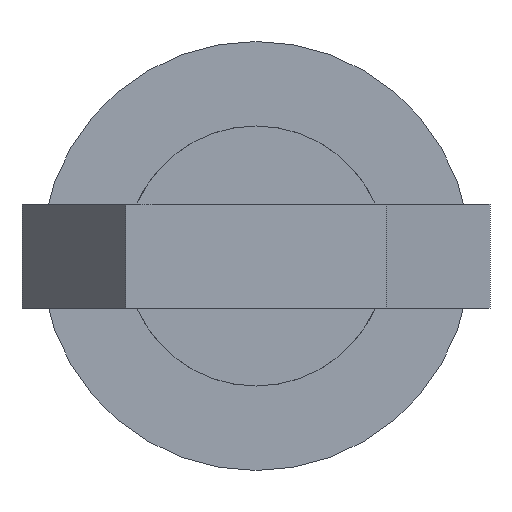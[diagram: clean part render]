
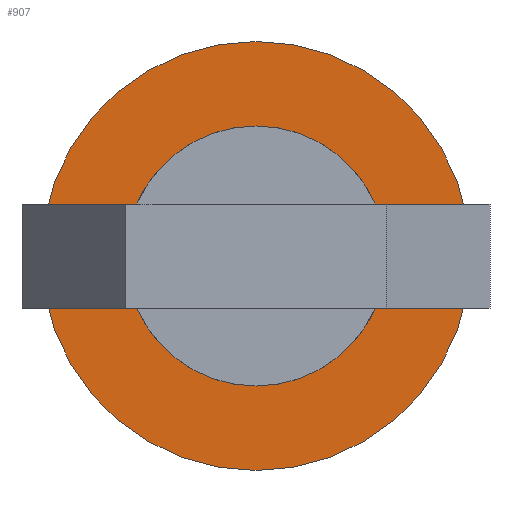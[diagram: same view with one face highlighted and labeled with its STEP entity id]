
A CAD part, front view. The second image highlights one B-rep face of the part: STEP entity #907.
In plain terms, the highlighted planar face has unit normal (0, -1, 0).
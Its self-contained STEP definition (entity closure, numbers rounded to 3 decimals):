
#6 = DIRECTION ( 'NONE',  ( 0., 0., -1. ) ) ;
#38 = CARTESIAN_POINT ( 'NONE',  ( 0., -18.8, 0. ) ) ;
#45 = EDGE_LOOP ( 'NONE', ( #249, #468 ) ) ;
#102 = DIRECTION ( 'NONE',  ( 0., 0., -1. ) ) ;
#123 = DIRECTION ( 'NONE',  ( 0., 0., -1. ) ) ;
#125 = VERTEX_POINT ( 'NONE', #267 ) ;
#135 = CIRCLE ( 'NONE', #318, 8.25 ) ;
#144 = CARTESIAN_POINT ( 'NONE',  ( 0., -18.8, 0. ) ) ;
#145 = VERTEX_POINT ( 'NONE', #845 ) ;
#165 = DIRECTION ( 'NONE',  ( 0., 0., -1. ) ) ;
#175 = VERTEX_POINT ( 'NONE', #712 ) ;
#182 = DIRECTION ( 'NONE',  ( 0., 0., -1. ) ) ;
#183 = DIRECTION ( 'NONE',  ( 0., -1., 0. ) ) ;
#187 = DIRECTION ( 'NONE',  ( 0., -1., 0. ) ) ;
#215 = DIRECTION ( 'NONE',  ( 0., -1., 0. ) ) ;
#249 = ORIENTED_EDGE ( 'NONE', *, *, #825, .T. ) ;
#267 = CARTESIAN_POINT ( 'NONE',  ( 0., -18.8, -5. ) ) ;
#318 = AXIS2_PLACEMENT_3D ( 'NONE', #458, #803, #165 ) ;
#335 = FACE_BOUND ( 'NONE', #398, .T. ) ;
#390 = PLANE ( 'NONE',  #650 ) ;
#398 = EDGE_LOOP ( 'NONE', ( #438, #491 ) ) ;
#438 = ORIENTED_EDGE ( 'NONE', *, *, #784, .F. ) ;
#458 = CARTESIAN_POINT ( 'NONE',  ( 0., -18.8, 0. ) ) ;
#468 = ORIENTED_EDGE ( 'NONE', *, *, #764, .T. ) ;
#491 = ORIENTED_EDGE ( 'NONE', *, *, #555, .F. ) ;
#495 = CARTESIAN_POINT ( 'NONE',  ( 0., -18.8, 5. ) ) ;
#524 = AXIS2_PLACEMENT_3D ( 'NONE', #38, #737, #102 ) ;
#531 = FACE_OUTER_BOUND ( 'NONE', #45, .T. ) ;
#555 = EDGE_CURVE ( 'NONE', #702, #125, #556, .T. ) ;
#556 = CIRCLE ( 'NONE', #717, 5. ) ;
#650 = AXIS2_PLACEMENT_3D ( 'NONE', #892, #183, #123 ) ;
#698 = CIRCLE ( 'NONE', #524, 5. ) ;
#702 = VERTEX_POINT ( 'NONE', #495 ) ;
#712 = CARTESIAN_POINT ( 'NONE',  ( 0., -18.8, 8.25 ) ) ;
#717 = AXIS2_PLACEMENT_3D ( 'NONE', #747, #187, #182 ) ;
#737 = DIRECTION ( 'NONE',  ( 0., -1., 0. ) ) ;
#747 = CARTESIAN_POINT ( 'NONE',  ( 0., -18.8, 0. ) ) ;
#758 = AXIS2_PLACEMENT_3D ( 'NONE', #144, #215, #6 ) ;
#764 = EDGE_CURVE ( 'NONE', #175, #145, #885, .T. ) ;
#784 = EDGE_CURVE ( 'NONE', #125, #702, #698, .T. ) ;
#803 = DIRECTION ( 'NONE',  ( 0., -1., 0. ) ) ;
#825 = EDGE_CURVE ( 'NONE', #145, #175, #135, .T. ) ;
#845 = CARTESIAN_POINT ( 'NONE',  ( 0., -18.8, -8.25 ) ) ;
#885 = CIRCLE ( 'NONE', #758, 8.25 ) ;
#892 = CARTESIAN_POINT ( 'NONE',  ( 8.25, -18.8, 0. ) ) ;
#907 = ADVANCED_FACE ( 'NONE', ( #531, #335 ), #390, .T. ) ;
